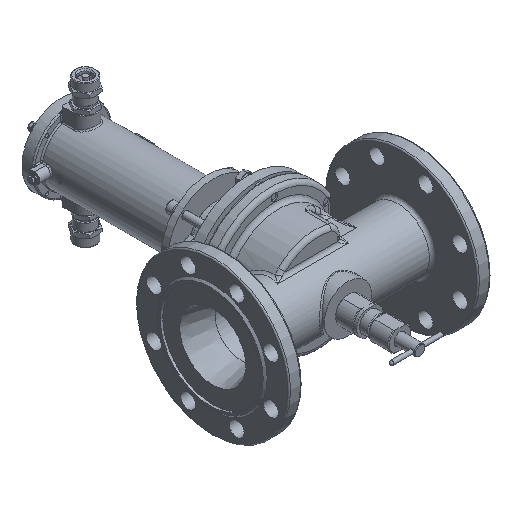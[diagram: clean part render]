
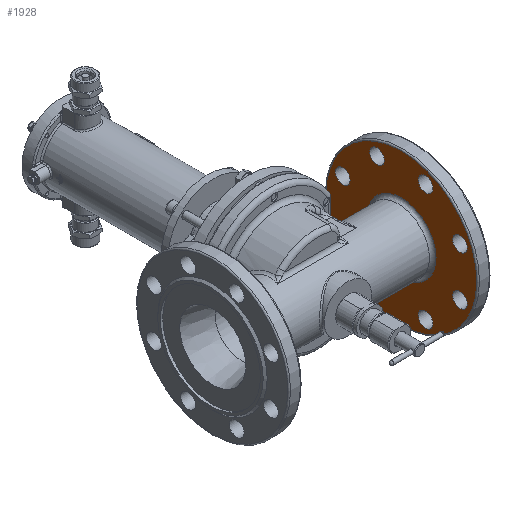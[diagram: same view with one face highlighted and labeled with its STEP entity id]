
A CAD part, isometric view. The second image highlights one B-rep face of the part: STEP entity #1928.
In plain terms, the highlighted planar face has unit normal (-1, 0, 0).
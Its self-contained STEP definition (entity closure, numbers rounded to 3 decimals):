
#1928=ADVANCED_FACE('',(#21646,#21648,#21650,#21652,#21654,#21656,#21658,#21660,
#21662,#21664),#21666,.T.);
#21646=FACE_BOUND('',#21647,.T.);
#21647=EDGE_LOOP('',(#33624));
#21648=FACE_BOUND('',#21649,.T.);
#21649=EDGE_LOOP('',(#33625));
#21650=FACE_BOUND('',#21651,.T.);
#21651=EDGE_LOOP('',(#33626));
#21652=FACE_BOUND('',#21653,.T.);
#21653=EDGE_LOOP('',(#33627));
#21654=FACE_BOUND('',#21655,.T.);
#21655=EDGE_LOOP('',(#33628));
#21656=FACE_BOUND('',#21657,.T.);
#21657=EDGE_LOOP('',(#33629));
#21658=FACE_BOUND('',#21659,.T.);
#21659=EDGE_LOOP('',(#33630));
#21660=FACE_BOUND('',#21661,.T.);
#21661=EDGE_LOOP('',(#33631));
#21662=FACE_BOUND('',#21663,.T.);
#21663=EDGE_LOOP('',(#33632));
#21664=FACE_OUTER_BOUND('',#21665,.T.);
#21665=EDGE_LOOP('',(#33633));
#21666=PLANE('',#21667);
#21667=AXIS2_PLACEMENT_3D('',#21668,#21669,#21670);
#21668=CARTESIAN_POINT('',(132.,0.,0.));
#21669=DIRECTION('',(-1.,0.,0.));
#21670=DIRECTION('',(0.,1.,0.));
#33624=ORIENTED_EDGE('',*,*,#41737,.F.);
#33625=ORIENTED_EDGE('',*,*,#41777,.T.);
#33626=ORIENTED_EDGE('',*,*,#41778,.T.);
#33627=ORIENTED_EDGE('',*,*,#41779,.T.);
#33628=ORIENTED_EDGE('',*,*,#41780,.T.);
#33629=ORIENTED_EDGE('',*,*,#41781,.T.);
#33630=ORIENTED_EDGE('',*,*,#41782,.T.);
#33631=ORIENTED_EDGE('',*,*,#41783,.T.);
#33632=ORIENTED_EDGE('',*,*,#41784,.T.);
#33633=ORIENTED_EDGE('',*,*,#41785,.T.);
#41737=EDGE_CURVE('',#50237,#50237,#50239,.T.);
#41777=EDGE_CURVE('',#50299,#50299,#50300,.T.);
#41778=EDGE_CURVE('',#50301,#50301,#50302,.T.);
#41779=EDGE_CURVE('',#50303,#50303,#50304,.T.);
#41780=EDGE_CURVE('',#50305,#50305,#50306,.T.);
#41781=EDGE_CURVE('',#50307,#50307,#50308,.T.);
#41782=EDGE_CURVE('',#50309,#50309,#50310,.T.);
#41783=EDGE_CURVE('',#50311,#50311,#50312,.T.);
#41784=EDGE_CURVE('',#50313,#50313,#50314,.T.);
#41785=EDGE_CURVE('',#50315,#50315,#50316,.T.);
#50237=VERTEX_POINT('',#79980);
#50239=CIRCLE('',#79985,52.);
#50299=VERTEX_POINT('',#80370);
#50300=CIRCLE('',#80371,11.);
#50301=VERTEX_POINT('',#80375);
#50302=CIRCLE('',#80376,11.);
#50303=VERTEX_POINT('',#80380);
#50304=CIRCLE('',#80381,11.);
#50305=VERTEX_POINT('',#80385);
#50306=CIRCLE('',#80386,11.);
#50307=VERTEX_POINT('',#80390);
#50308=CIRCLE('',#80391,11.);
#50309=VERTEX_POINT('',#80395);
#50310=CIRCLE('',#80396,11.);
#50311=VERTEX_POINT('',#80400);
#50312=CIRCLE('',#80401,11.);
#50313=VERTEX_POINT('',#80405);
#50314=CIRCLE('',#80406,11.);
#50315=VERTEX_POINT('',#80410);
#50316=CIRCLE('',#80411,113.);
#79980=CARTESIAN_POINT('',(132.,52.,0.));
#79985=AXIS2_PLACEMENT_3D('',#79986,#79987,#79988);
#79986=CARTESIAN_POINT('',(132.,0.,0.));
#79987=DIRECTION('',(-1.,0.,0.));
#79988=DIRECTION('',(0.,1.,0.));
#80370=CARTESIAN_POINT('',(132.,-36.355,-76.769));
#80371=AXIS2_PLACEMENT_3D('',#80372,#80373,#80374);
#80372=CARTESIAN_POINT('',(132.,-36.355,-87.769));
#80373=DIRECTION('',(1.,0.,0.));
#80374=DIRECTION('',(0.,0.,1.));
#80375=CARTESIAN_POINT('',(132.,-36.355,98.769));
#80376=AXIS2_PLACEMENT_3D('',#80377,#80378,#80379);
#80377=CARTESIAN_POINT('',(132.,-36.355,87.769));
#80378=DIRECTION('',(1.,0.,0.));
#80379=DIRECTION('',(0.,0.,1.));
#80380=CARTESIAN_POINT('',(132.,-87.769,47.355));
#80381=AXIS2_PLACEMENT_3D('',#80382,#80383,#80384);
#80382=CARTESIAN_POINT('',(132.,-87.769,36.355));
#80383=DIRECTION('',(1.,0.,0.));
#80384=DIRECTION('',(0.,0.,1.));
#80385=CARTESIAN_POINT('',(132.,-87.769,-25.355));
#80386=AXIS2_PLACEMENT_3D('',#80387,#80388,#80389);
#80387=CARTESIAN_POINT('',(132.,-87.769,-36.355));
#80388=DIRECTION('',(1.,0.,0.));
#80389=DIRECTION('',(0.,0.,1.));
#80390=CARTESIAN_POINT('',(132.,36.355,-76.769));
#80391=AXIS2_PLACEMENT_3D('',#80392,#80393,#80394);
#80392=CARTESIAN_POINT('',(132.,36.355,-87.769));
#80393=DIRECTION('',(1.,0.,0.));
#80394=DIRECTION('',(0.,0.,1.));
#80395=CARTESIAN_POINT('',(132.,36.355,98.769));
#80396=AXIS2_PLACEMENT_3D('',#80397,#80398,#80399);
#80397=CARTESIAN_POINT('',(132.,36.355,87.769));
#80398=DIRECTION('',(1.,0.,0.));
#80399=DIRECTION('',(0.,0.,1.));
#80400=CARTESIAN_POINT('',(132.,87.769,47.355));
#80401=AXIS2_PLACEMENT_3D('',#80402,#80403,#80404);
#80402=CARTESIAN_POINT('',(132.,87.769,36.355));
#80403=DIRECTION('',(1.,0.,0.));
#80404=DIRECTION('',(0.,0.,1.));
#80405=CARTESIAN_POINT('',(132.,87.769,-25.355));
#80406=AXIS2_PLACEMENT_3D('',#80407,#80408,#80409);
#80407=CARTESIAN_POINT('',(132.,87.769,-36.355));
#80408=DIRECTION('',(1.,0.,0.));
#80409=DIRECTION('',(0.,0.,1.));
#80410=CARTESIAN_POINT('',(132.,113.,0.));
#80411=AXIS2_PLACEMENT_3D('',#80412,#80413,#80414);
#80412=CARTESIAN_POINT('',(132.,0.,0.));
#80413=DIRECTION('',(-1.,0.,0.));
#80414=DIRECTION('',(0.,1.,0.));
